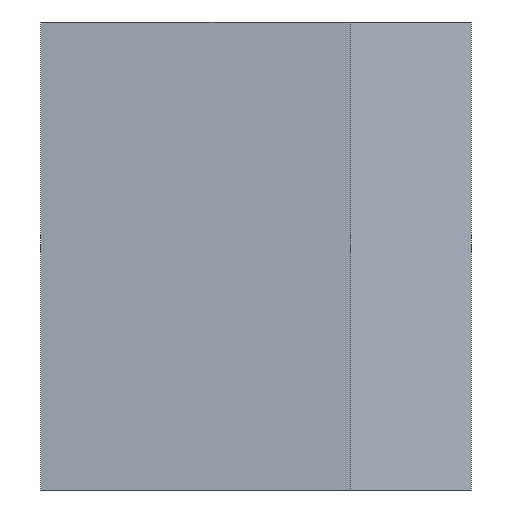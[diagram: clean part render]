
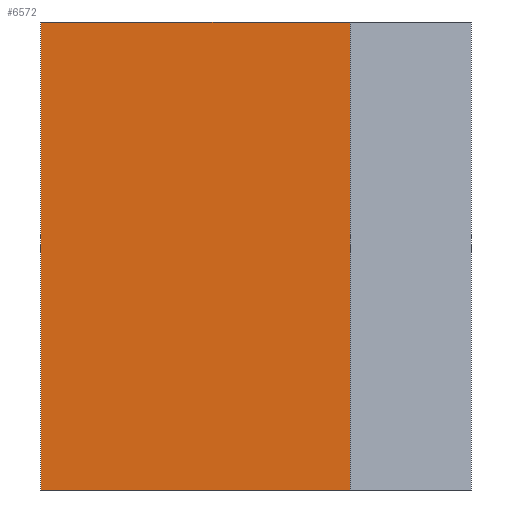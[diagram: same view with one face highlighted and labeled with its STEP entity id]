
A CAD part, front view. The second image highlights one B-rep face of the part: STEP entity #6572.
In plain terms, the highlighted planar face has unit normal (0, -1, 0).
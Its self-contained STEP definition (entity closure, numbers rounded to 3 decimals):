
#44 = PLANE('',#45);
#45 = AXIS2_PLACEMENT_3D('',#46,#47,#48);
#46 = CARTESIAN_POINT('',(-17.,-8.,-16.1));
#47 = DIRECTION('',(-1.,0.,0.));
#48 = DIRECTION('',(0.,1.,0.));
#72 = PLANE('',#73);
#73 = AXIS2_PLACEMENT_3D('',#74,#75,#76);
#74 = CARTESIAN_POINT('',(-12.48,40.278,-7.4));
#75 = DIRECTION('',(0.,0.,-1.));
#76 = DIRECTION('',(0.,1.,0.));
#126 = PLANE('',#127);
#127 = AXIS2_PLACEMENT_3D('',#128,#129,#130);
#128 = CARTESIAN_POINT('',(-12.48,40.278,-16.1));
#129 = DIRECTION('',(0.,0.,-1.));
#130 = DIRECTION('',(0.,1.,0.));
#141 = EDGE_CURVE('',#142,#144,#146,.T.);
#142 = VERTEX_POINT('',#143);
#143 = CARTESIAN_POINT('',(-17.,-8.,-16.1));
#144 = VERTEX_POINT('',#145);
#145 = CARTESIAN_POINT('',(-17.,-8.,-7.4));
#146 = SURFACE_CURVE('',#147,(#151,#158),.PCURVE_S1.);
#147 = LINE('',#148,#149);
#148 = CARTESIAN_POINT('',(-17.,-8.,-16.1));
#149 = VECTOR('',#150,1.);
#150 = DIRECTION('',(0.,0.,1.));
#151 = PCURVE('',#44,#152);
#152 = DEFINITIONAL_REPRESENTATION('',(#153),#157);
#153 = LINE('',#154,#155);
#154 = CARTESIAN_POINT('',(0.,0.));
#155 = VECTOR('',#156,1.);
#156 = DIRECTION('',(0.,-1.));
#157 = ( GEOMETRIC_REPRESENTATION_CONTEXT(2) 
PARAMETRIC_REPRESENTATION_CONTEXT() REPRESENTATION_CONTEXT('2D SPACE',''
  ) );
#158 = PCURVE('',#159,#164);
#159 = PLANE('',#160);
#160 = AXIS2_PLACEMENT_3D('',#161,#162,#163);
#161 = CARTESIAN_POINT('',(-11.25,-8.,-16.1));
#162 = DIRECTION('',(0.,-1.,0.));
#163 = DIRECTION('',(-1.,0.,0.));
#164 = DEFINITIONAL_REPRESENTATION('',(#165),#169);
#165 = LINE('',#166,#167);
#166 = CARTESIAN_POINT('',(5.75,0.));
#167 = VECTOR('',#168,1.);
#168 = DIRECTION('',(0.,-1.));
#169 = ( GEOMETRIC_REPRESENTATION_CONTEXT(2) 
PARAMETRIC_REPRESENTATION_CONTEXT() REPRESENTATION_CONTEXT('2D SPACE',''
  ) );
#3623 = VERTEX_POINT('',#3624);
#3624 = CARTESIAN_POINT('',(-11.25,-8.,-16.1));
#3638 = PLANE('',#3639);
#3639 = AXIS2_PLACEMENT_3D('',#3640,#3641,#3642);
#3640 = CARTESIAN_POINT('',(-11.25,-5.917,-16.1));
#3641 = DIRECTION('',(1.,0.,0.));
#3642 = DIRECTION('',(0.,-1.,0.));
#3650 = EDGE_CURVE('',#3623,#142,#3651,.T.);
#3651 = SURFACE_CURVE('',#3652,(#3656,#3663),.PCURVE_S1.);
#3652 = LINE('',#3653,#3654);
#3653 = CARTESIAN_POINT('',(-11.25,-8.,-16.1));
#3654 = VECTOR('',#3655,1.);
#3655 = DIRECTION('',(-1.,0.,0.));
#3656 = PCURVE('',#126,#3657);
#3657 = DEFINITIONAL_REPRESENTATION('',(#3658),#3662);
#3658 = LINE('',#3659,#3660);
#3659 = CARTESIAN_POINT('',(-48.278,1.23));
#3660 = VECTOR('',#3661,1.);
#3661 = DIRECTION('',(0.,-1.));
#3662 = ( GEOMETRIC_REPRESENTATION_CONTEXT(2) 
PARAMETRIC_REPRESENTATION_CONTEXT() REPRESENTATION_CONTEXT('2D SPACE',''
  ) );
#3663 = PCURVE('',#159,#3664);
#3664 = DEFINITIONAL_REPRESENTATION('',(#3665),#3669);
#3665 = LINE('',#3666,#3667);
#3666 = CARTESIAN_POINT('',(0.,0.));
#3667 = VECTOR('',#3668,1.);
#3668 = DIRECTION('',(1.,0.));
#3669 = ( GEOMETRIC_REPRESENTATION_CONTEXT(2) 
PARAMETRIC_REPRESENTATION_CONTEXT() REPRESENTATION_CONTEXT('2D SPACE',''
  ) );
#6477 = VERTEX_POINT('',#6478);
#6478 = CARTESIAN_POINT('',(-11.25,-8.,-7.4));
#6499 = EDGE_CURVE('',#6477,#144,#6500,.T.);
#6500 = SURFACE_CURVE('',#6501,(#6505,#6512),.PCURVE_S1.);
#6501 = LINE('',#6502,#6503);
#6502 = CARTESIAN_POINT('',(-11.25,-8.,-7.4));
#6503 = VECTOR('',#6504,1.);
#6504 = DIRECTION('',(-1.,0.,0.));
#6505 = PCURVE('',#72,#6506);
#6506 = DEFINITIONAL_REPRESENTATION('',(#6507),#6511);
#6507 = LINE('',#6508,#6509);
#6508 = CARTESIAN_POINT('',(-48.278,1.23));
#6509 = VECTOR('',#6510,1.);
#6510 = DIRECTION('',(0.,-1.));
#6511 = ( GEOMETRIC_REPRESENTATION_CONTEXT(2) 
PARAMETRIC_REPRESENTATION_CONTEXT() REPRESENTATION_CONTEXT('2D SPACE',''
  ) );
#6512 = PCURVE('',#159,#6513);
#6513 = DEFINITIONAL_REPRESENTATION('',(#6514),#6518);
#6514 = LINE('',#6515,#6516);
#6515 = CARTESIAN_POINT('',(0.,-8.7));
#6516 = VECTOR('',#6517,1.);
#6517 = DIRECTION('',(1.,0.));
#6518 = ( GEOMETRIC_REPRESENTATION_CONTEXT(2) 
PARAMETRIC_REPRESENTATION_CONTEXT() REPRESENTATION_CONTEXT('2D SPACE',''
  ) );
#6572 = ADVANCED_FACE('',(#6573),#159,.T.);
#6573 = FACE_BOUND('',#6574,.T.);
#6574 = EDGE_LOOP('',(#6575,#6596,#6597,#6598));
#6575 = ORIENTED_EDGE('',*,*,#6576,.T.);
#6576 = EDGE_CURVE('',#3623,#6477,#6577,.T.);
#6577 = SURFACE_CURVE('',#6578,(#6582,#6589),.PCURVE_S1.);
#6578 = LINE('',#6579,#6580);
#6579 = CARTESIAN_POINT('',(-11.25,-8.,-16.1));
#6580 = VECTOR('',#6581,1.);
#6581 = DIRECTION('',(0.,0.,1.));
#6582 = PCURVE('',#159,#6583);
#6583 = DEFINITIONAL_REPRESENTATION('',(#6584),#6588);
#6584 = LINE('',#6585,#6586);
#6585 = CARTESIAN_POINT('',(0.,0.));
#6586 = VECTOR('',#6587,1.);
#6587 = DIRECTION('',(0.,-1.));
#6588 = ( GEOMETRIC_REPRESENTATION_CONTEXT(2) 
PARAMETRIC_REPRESENTATION_CONTEXT() REPRESENTATION_CONTEXT('2D SPACE',''
  ) );
#6589 = PCURVE('',#3638,#6590);
#6590 = DEFINITIONAL_REPRESENTATION('',(#6591),#6595);
#6591 = LINE('',#6592,#6593);
#6592 = CARTESIAN_POINT('',(2.083,0.));
#6593 = VECTOR('',#6594,1.);
#6594 = DIRECTION('',(0.,-1.));
#6595 = ( GEOMETRIC_REPRESENTATION_CONTEXT(2) 
PARAMETRIC_REPRESENTATION_CONTEXT() REPRESENTATION_CONTEXT('2D SPACE',''
  ) );
#6596 = ORIENTED_EDGE('',*,*,#6499,.T.);
#6597 = ORIENTED_EDGE('',*,*,#141,.F.);
#6598 = ORIENTED_EDGE('',*,*,#3650,.F.);
